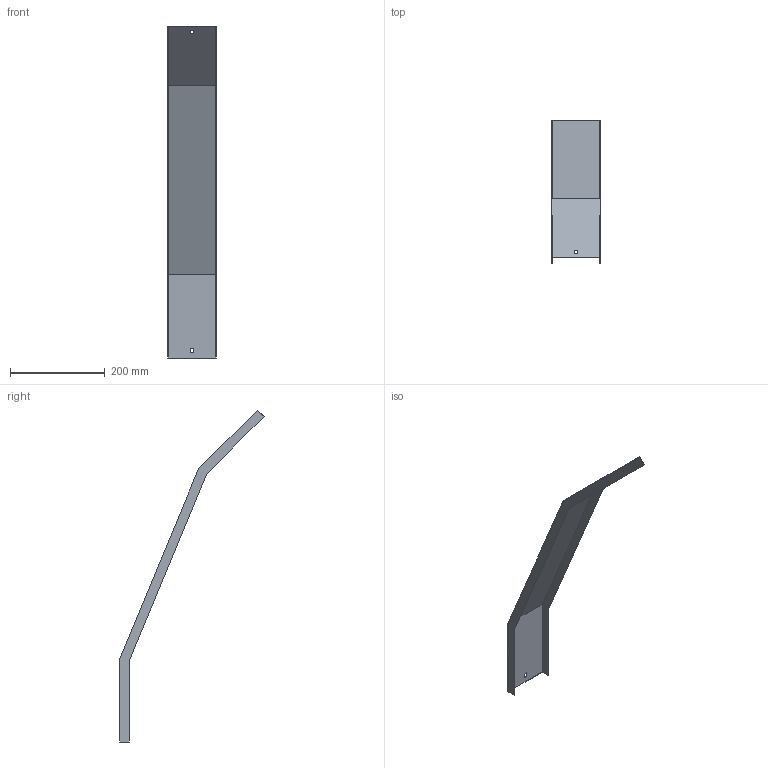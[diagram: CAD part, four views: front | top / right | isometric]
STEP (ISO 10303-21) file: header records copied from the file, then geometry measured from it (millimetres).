
FILE_DESCRIPTION (( 'STEP AP214' ), '1' );
FILE_NAME ('34N5J100.step', '2025-02-21T10:33:35', ( '' ), ( '' ), 'SwSTEP 2.0', 'SolidWorks 2023', '' );
FILE_SCHEMA (( 'AUTOMOTIVE_DESIGN' ));
Length unit declared in the file: millimetre
Products named in the file (1): 34N5J100
Bounding box: 103 x 304.65 x 701.34 mm (x, y, z)
Volume: 164299.3 mm3; surface area: 221890.6 mm2
Topology: 1 solids, 1 shells, 26 faces, 72 edges, 48 vertices
Faces by surface type: plane 26
Entity records: 847 total; most frequent: CARTESIAN_POINT 147, ORIENTED_EDGE 144, DIRECTION 126, EDGE_CURVE 72, VECTOR 72, LINE 72, VERTEX_POINT 48, EDGE_LOOP 30
